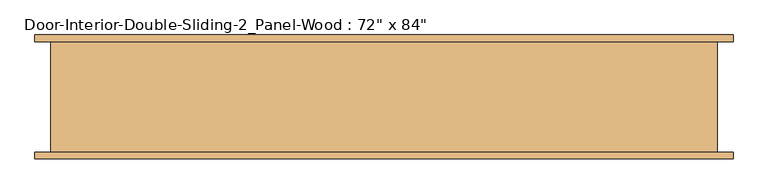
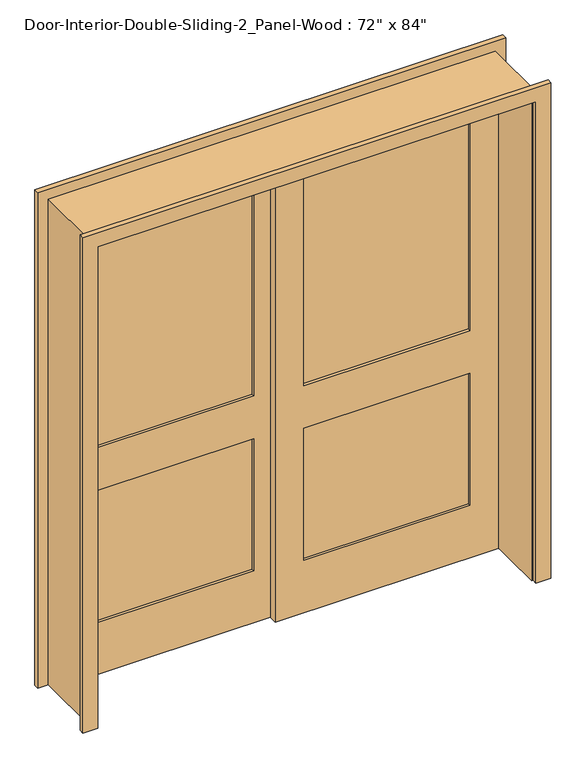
"""IFC4 building model written with IfcOpenShell, lengths in millimetres: door geometry."""

from ifc_helpers import new_model, si_unit, frame, origin, place, context, project, spatial, polyline, outline, extrude, source, transform, mapped, element, save


def door_956c32c9(model_context):
    return source(origin(), model_context, "Body", "SweptSolid", [
        extrude(outline(polyline([(793.75, 94.1916667), (95.25, 94.1916667), (95.25, 105.8333333), (793.75, 105.8333333), (793.75, 94.1916667)])), frame((0.0, 0.0, 1009.65), z_axis=(0.0, 0.0, 1.0), x_axis=(1.0, 0.0, 0.0)), (0.0, 0.0, 1.0), 1004.8875),
        extrude(outline(polyline([(793.75, 94.1916667), (95.25, 94.1916667), (95.25, 105.8333333), (793.75, 105.8333333), (793.75, 94.1916667)])), frame((0.0, 0.0, 231.775), z_axis=(0.0, 0.0, 1.0), x_axis=(1.0, 0.0, 0.0)), (0.0, 0.0, 1.0), 587.375),
        extrude(outline(polyline([(2133.6, -25.4), (0.0, -25.4), (0.0, 914.4), (2133.6, 914.4), (2133.6, -25.4)]), holes=[polyline([(2014.5375, 95.25), (2014.5375, 793.75), (1009.65, 793.75), (1009.65, 95.25), (2014.5375, 95.25)]), polyline([(819.15, 95.25), (819.15, 793.75), (231.775, 793.75), (231.775, 95.25), (819.15, 95.25)])]), frame((0.0, 82.55, 0.0), z_axis=(0.0, 1.0, 0.0), x_axis=(0.0, 0.0, 1.0)), (0.0, 0.0, 1.0), 34.925),
        extrude(outline(polyline([(-95.25, 129.1166667), (-793.75, 129.1166667), (-793.75, 140.7583333), (-95.25, 140.7583333), (-95.25, 129.1166667)])), frame((0.0, 0.0, 1009.65), z_axis=(0.0, 0.0, 1.0), x_axis=(1.0, 0.0, 0.0)), (0.0, 0.0, 1.0), 1004.8875),
        extrude(outline(polyline([(-95.25, 129.1166667), (-793.75, 129.1166667), (-793.75, 140.7583333), (-95.25, 140.7583333), (-95.25, 129.1166667)])), frame((0.0, 0.0, 231.775), z_axis=(0.0, 0.0, 1.0), x_axis=(1.0, 0.0, 0.0)), (0.0, 0.0, 1.0), 587.375),
        extrude(outline(polyline([(2133.6, -914.4), (0.0, -914.4), (0.0, 25.4), (2133.6, 25.4), (2133.6, -914.4)]), holes=[polyline([(2014.5375, -793.75), (2014.5375, -95.25), (1009.65, -95.25), (1009.65, -793.75), (2014.5375, -793.75)]), polyline([(819.15, -793.75), (819.15, -95.25), (231.775, -95.25), (231.775, -793.75), (819.15, -793.75)])]), frame((0.0, 117.475, 0.0), z_axis=(0.0, 1.0, 0.0), x_axis=(0.0, 0.0, 1.0)), (0.0, 0.0, 1.0), 34.925),
        extrude(outline(polyline([(0.0, 914.4), (0.0, 939.8), (2159.0, 939.8), (2159.0, -939.8), (0.0, -939.8), (0.0, -914.4), (2133.6, -914.4), (2133.6, 914.4), (0.0, 914.4)])), frame((0.0, -158.75, 0.0), z_axis=(0.0, 1.0, 0.0), x_axis=(0.0, 0.0, 1.0)), (0.0, 0.0, 1.0), 311.15),
        extrude(outline(polyline([(0.0, 920.75), (0.0, 984.25), (2203.45, 984.25), (2203.45, -984.25), (0.0, -984.25), (0.0, -920.75), (2139.95, -920.75), (2139.95, 920.75), (0.0, 920.75)])), frame((0.0, -177.8, 0.0), z_axis=(0.0, 1.0, 0.0), x_axis=(0.0, 0.0, 1.0)), (0.0, 0.0, 1.0), 19.05),
        extrude(outline(polyline([(0.0, 920.75), (0.0, 984.25), (2203.45, 984.25), (2203.45, -984.25), (0.0, -984.25), (0.0, -920.75), (2139.95, -920.75), (2139.95, 920.75), (0.0, 920.75)])), frame((0.0, 152.4, 0.0), z_axis=(0.0, 1.0, 0.0), x_axis=(0.0, 0.0, 1.0)), (0.0, 0.0, 1.0), 19.05),
    ])


if __name__ == "__main__":
    model = new_model("IFC4")
    model_context = context("Model", 3, world=origin())
    ifc_project = project(units=[si_unit("LENGTHUNIT", "METRE", prefix="MILLI")], contexts=[model_context])
    site = spatial("IfcSite", under=ifc_project)
    building = spatial("IfcBuilding", under=site)
    placement = place(None, origin())
    door_shape = door_956c32c9(model_context)
    element("IfcDoor", 1, ObjectType="Door-Interior-Double-Sliding-2_Panel-Wood : 72\" x 84\"", at=placement, inside=building, context=model_context, shape_type="MappedRepresentation", body=[
        mapped(door_shape, transform((0.0, 0.0, 0.0), x_axis=(1.0, 0.0, 0.0), y_axis=(0.0, 1.0, 0.0), z_axis=(0.0, 0.0, 1.0))),
    ])
    save(model, "model.ifc")
